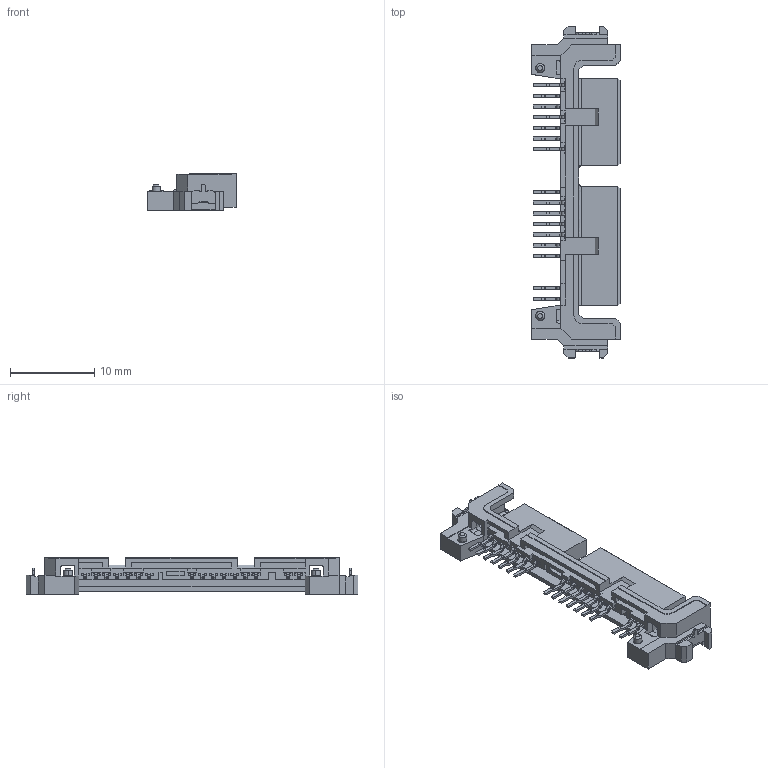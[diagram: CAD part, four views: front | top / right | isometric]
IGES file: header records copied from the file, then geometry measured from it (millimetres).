
Start section: START RECORD GO HERE.
Global section: file name: 10_5650_016_005_xxx +.igs; native system: IBM CATIA IGES - CATIA Version 5 Release 14 ; preprocessor: CATIA Version 5 Release 14 ; author: Engineering Dept.; organization: KYOCERA ELCO Corporation; date: 20090304.142502; units: millimetre
Bounding box: 10.5 x 39.5 x 4.4 mm (x, y, z)
Surface area: 1275.3 mm2 (no closed solid volume)
Topology: 0 solids, 0 shells, 758 faces, 4294 edges, 4294 vertices
Faces by surface type: plane 551, revolution 207
